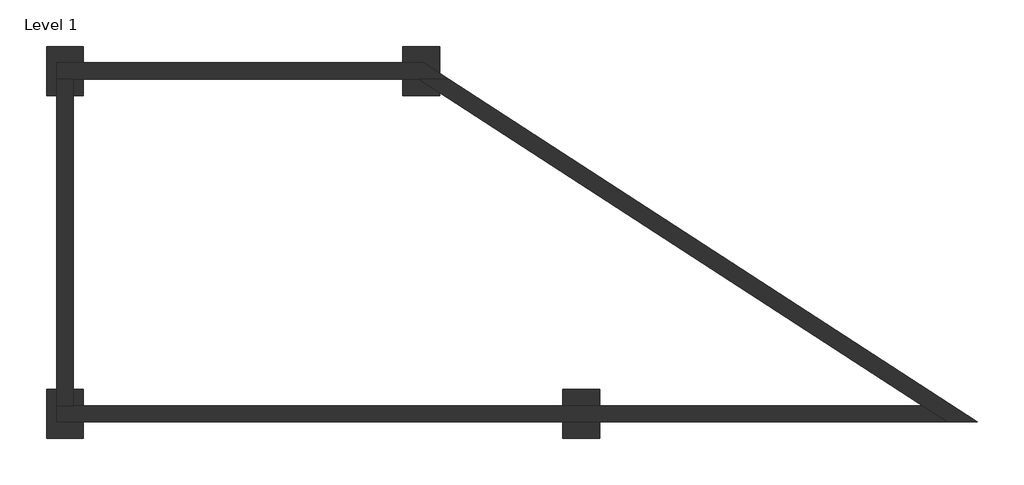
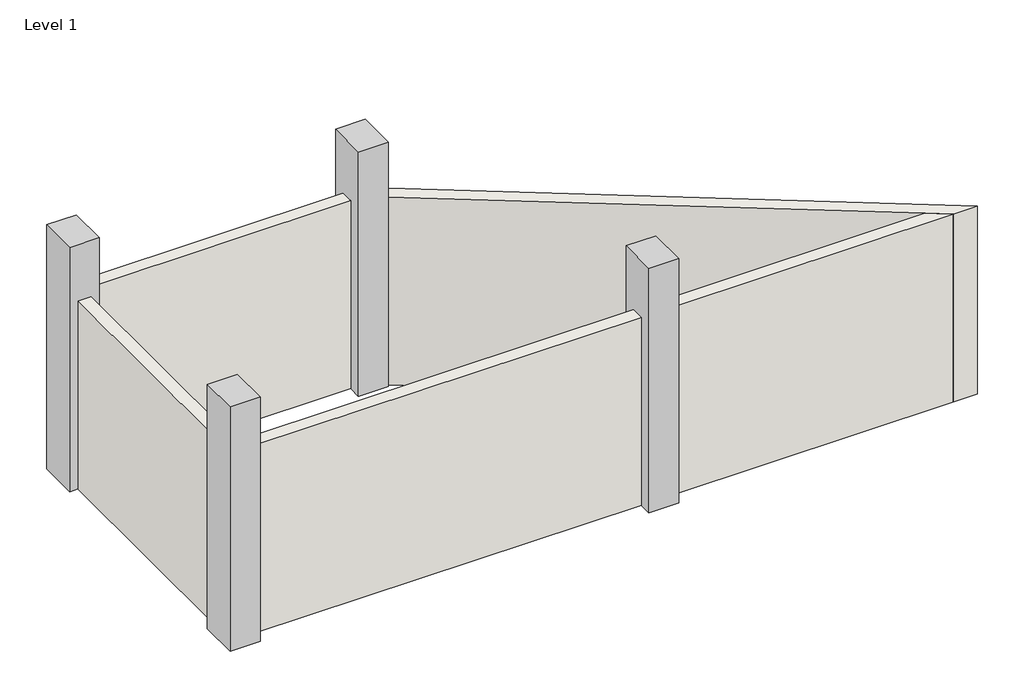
# One storey: 4 columns, 4 walls.
"""IFC4 building model written with IfcOpenShell, lengths in millimetres."""

import ifcopenshell
import ifcopenshell.guid

model = None  # the IFC model being written
_history = None  # IfcOwnerHistory: only IFC2X3 demands one
_inside = {}  # id of a spatial element -> (the spatial element, [elements in it])
_under = {}  # id of a project, library or spatial element -> (it, [spatial elements below it])
_declared = {}  # id of a project -> (the project, [libraries it declares])
_typed = {}  # id of a type object -> (the type object, [elements of that type])
_made_of = {}  # id of a material, layer set ... -> (it, [elements and type objects made of it])


def new_model(schema):
    """Start an empty IFC model of exactly this schema.

    Asked for "IFC4X3", IfcOpenShell would pick the latest addendum, in which some entities
    have other attributes; the version numbers below select the first issue.
    IFC2X3 requires an IfcOwnerHistory on every rooted entity: one is made here for all.
    """
    global model, _history
    if schema == "IFC4X3":
        model = ifcopenshell.file(schema_version=(4, 3, 0, 0))
    else:
        model = ifcopenshell.file(schema=schema)
    _inside.clear()
    _under.clear()
    _declared.clear()
    _typed.clear()
    _made_of.clear()
    _history = None
    if model.schema == "IFC2X3":
        org = make("IfcOrganization", Name="unknown")
        user = make(
            "IfcPersonAndOrganization",
            ThePerson=make("IfcPerson", FamilyName="unknown"),
            TheOrganization=org,
        )
        app = make(
            "IfcApplication",
            ApplicationDeveloper=org,
            Version="unknown",
            ApplicationFullName="unknown",
            ApplicationIdentifier="unknown",
        )
        _history = make(
            "IfcOwnerHistory",
            OwningUser=user,
            OwningApplication=app,
            ChangeAction="ADDED",
            CreationDate=0,
        )
    return model


def make(cls, **values):
    """One entity of the class cls with the attributes given. An attribute that is None is left unset."""
    return model.create_entity(
        cls, **{name: value for name, value in values.items() if value is not None}
    )


def rooted(cls, **values):
    """An entity with a GlobalId (a new one), such as an element, a storey or a relation."""
    return make(cls, GlobalId=ifcopenshell.guid.new(), OwnerHistory=_history, **values)


def si_unit(unit_type, name, prefix=None):
    """IfcSIUnit, for example si_unit("LENGTHUNIT", "METRE", prefix="MILLI")."""
    return make("IfcSIUnit", UnitType=unit_type, Prefix=prefix, Name=name)


def assignment(units):
    """IfcUnitAssignment: the units of a project."""
    return None if units is None else make("IfcUnitAssignment", Units=units)


def point(xyz):
    """IfcCartesianPoint."""
    return None if xyz is None else make("IfcCartesianPoint", Coordinates=xyz)


def direction(xyz):
    """IfcDirection."""
    return None if xyz is None else make("IfcDirection", DirectionRatios=xyz)


def frame(location, z_axis=None, x_axis=None):
    """IfcAxis2Placement3D, a coordinate frame: its origin and axes. An axis left out is left unset."""
    return make(
        "IfcAxis2Placement3D",
        Location=point(location),
        Axis=direction(z_axis),
        RefDirection=direction(x_axis),
    )


def origin():
    """The frame at (0, 0, 0) with its axes left unset."""
    return frame((0.0, 0.0, 0.0))


def place(relative_to, where):
    """IfcLocalPlacement: puts the frame where relative to a parent placement (None: the world)."""
    return make(
        "IfcLocalPlacement", PlacementRelTo=relative_to, RelativePlacement=where
    )


def context(
    kind, dimensions, precision=None, world=None, true_north=None, identifier=None
):
    """IfcGeometricRepresentationContext, for example the 3D "Model" context."""
    return make(
        "IfcGeometricRepresentationContext",
        ContextIdentifier=identifier,
        ContextType=kind,
        CoordinateSpaceDimension=dimensions,
        Precision=precision,
        WorldCoordinateSystem=world,
        TrueNorth=true_north,
    )


def project(units=None, contexts=None):
    """IfcProject with its units and contexts."""
    return rooted(
        "IfcProject",
        Name="project",
        RepresentationContexts=contexts,
        UnitsInContext=assignment(units),
    )


def spatial(cls, under=None, at=None, **own):
    """A site, building, storey or space (cls), placed at a placement, below another one or the project."""
    s = rooted(cls, ObjectPlacement=at, **own)
    if under is not None:
        _under.setdefault(under.id(), (under, []))[1].append(s)
    return s


def polyline(points):
    """IfcPolyline through the points."""
    return make("IfcPolyline", Points=[point(p) for p in points])


def outline(outer, holes=None, kind="AREA"):
    """IfcArbitraryClosedProfileDef: a profile drawn as a closed curve; with holes, ...WithVoids."""
    if holes is None:
        return make("IfcArbitraryClosedProfileDef", ProfileType=kind, OuterCurve=outer)
    return make(
        "IfcArbitraryProfileDefWithVoids",
        ProfileType=kind,
        OuterCurve=outer,
        InnerCurves=holes,
    )


def extrude(swept, where, along, depth):
    """IfcExtrudedAreaSolid: the profile swept, set in the frame where, extruded along a direction by depth."""
    return make(
        "IfcExtrudedAreaSolid",
        SweptArea=swept,
        Position=where,
        ExtrudedDirection=direction(along),
        Depth=depth,
    )


def faces_of(points, faces, orient=None, outer=None):
    """IfcFace entities. A face is a list of loops; a loop is a list of indices into points, from 0.

    orient and outer hold one flag for each loop. By default every Orientation is true, the
    first loop of a face is its IfcFaceOuterBound and the others are IfcFaceBound.
    """
    made = []
    for i, loops in enumerate(faces):
        bounds = []
        for j, loop in enumerate(loops):
            is_outer = j == 0 if outer is None else outer[i][j]
            bounds.append(
                make(
                    "IfcFaceOuterBound" if is_outer else "IfcFaceBound",
                    Bound=make("IfcPolyLoop", Polygon=[points[k] for k in loop]),
                    Orientation=True if orient is None else orient[i][j],
                )
            )
        made.append(make("IfcFace", Bounds=bounds))
    return made


def faceted_brep(points, faces, orient=None, outer=None, voids=None):
    """IfcFacetedBrep: a solid bounded by flat faces; with voids (closed shells), ...WithVoids."""
    shared = [point(p) for p in points]
    hull = make("IfcClosedShell", CfsFaces=faces_of(shared, faces, orient, outer))
    if voids is None:
        return make("IfcFacetedBrep", Outer=hull)
    return make(
        "IfcFacetedBrepWithVoids",
        Outer=hull,
        Voids=[
            make(cls, CfsFaces=faces_of(shared, fs, o, b)) for cls, fs, o, b in voids
        ],
    )


def shape(context_of_items, identifier, shape_type, items):
    """IfcShapeRepresentation: the items that make up one representation, for example the "Body"."""
    return make(
        "IfcShapeRepresentation",
        ContextOfItems=context_of_items,
        RepresentationIdentifier=identifier,
        RepresentationType=shape_type,
        Items=items,
    )


def made_of(thing, what):
    """Note that an element or type object is made of a material, layer set ...; save() writes the relation."""
    if what is not None:
        _made_of.setdefault(what.id(), (what, []))[1].append(thing)
    return thing


def element(
    cls,
    number,
    at=None,
    inside=None,
    cuts=None,
    type_object=None,
    material=None,
    context=None,
    identifier="Body",
    shape_type=None,
    held_by="IfcProductDefinitionShape",
    body=None,
    shapes=None,
    **own,
):
    """One element of the class cls, such as IfcWall. Its Tag is "e" and its number.

    at: its placement. inside: the storey or other place that contains it. cuts: it is an
    opening in that element (IfcRelVoidsElement). A single representation is given by context,
    identifier, shape_type and body (its items); several are given by shapes. held_by: the class
    of the entity that holds the representations. save() writes the other relations.
    """
    e = rooted(cls, Tag="e%d" % number, ObjectPlacement=at, **own)
    if body is not None:
        shapes = [shape(context, identifier, shape_type, body)]
    if shapes is not None:
        e.Representation = make(held_by, Representations=shapes)
    if inside is not None:
        _inside.setdefault(inside.id(), (inside, []))[1].append(e)
    if cuts is not None:
        rooted(
            "IfcRelVoidsElement", RelatingBuildingElement=cuts, RelatedOpeningElement=e
        )
    if type_object is not None:
        _typed.setdefault(type_object.id(), (type_object, []))[1].append(e)
    return made_of(e, material)


def aggregate(whole, parts):
    """IfcRelAggregates: a whole, such as a stair, and the parts it consists of."""
    return rooted("IfcRelAggregates", RelatingObject=whole, RelatedObjects=parts)


def save(model, path):
    """Write the relations noted so far, then the file.

    IfcRelAggregates (storeys below a building ...), IfcRelContainedInSpatialStructure (elements
    in a storey), IfcRelDefinesByType, IfcRelAssociatesMaterial and IfcRelDeclares: one each for
    every whole, place, type object, material and project.
    """
    for whole, parts in _under.values():
        aggregate(whole, parts)
    for where, things in _inside.values():
        rooted(
            "IfcRelContainedInSpatialStructure",
            RelatedElements=things,
            RelatingStructure=where,
        )
    for kind, things in _typed.values():
        rooted("IfcRelDefinesByType", RelatedObjects=things, RelatingType=kind)
    for what, things in _made_of.values():
        rooted("IfcRelAssociatesMaterial", RelatedObjects=things, RelatingMaterial=what)
    for by, libraries in _declared.values():
        rooted("IfcRelDeclares", RelatingContext=by, RelatedDefinitions=libraries)
    model.write(path)


model = new_model("IFC4")

# Units and contexts
model_context = context("Model", 3, world=origin())
ifc_project = project(units=[si_unit("LENGTHUNIT", "METRE", prefix="MILLI")], contexts=[model_context])

# Site, building, storey
site = spatial("IfcSite", under=ifc_project)
building = spatial("IfcBuilding", under=site)
storey = spatial("IfcBuildingStorey", under=building, Name="Level 1", Elevation=0.0)

# Columns
placement = place(None, origin())
element("IfcColumn", 1, ObjectType="Concrete-Rectangular-Column : 18 x 24", at=placement, inside=storey, context=model_context, shape_type="Brep", body=[
    faceted_brep([(-12581.4036402, 17159.1921416, 0.0), (-12581.4036402, 17768.7921416, 0.0), (-12124.2036402, 17768.7921416, 0.0), (-12124.2036402, 17565.5921416, 0.0), (-12454.4036402, 17565.5921416, 0.0), (-12454.4036402, 17362.3921416, 0.0), (-12454.4036402, 17159.1921416, 0.0), (-12124.2036402, 17768.7921416, 3962.4), (-12124.2036402, 17159.1921416, 3962.4), (-12124.2036402, 17159.1921416, 0.0), (-12124.2036402, 17362.3921416, 0.0), (-12124.2036402, 17362.3921416, 3048.0), (-12124.2036402, 17565.5921416, 3048.0), (-12581.4036402, 17159.1921416, 3962.4), (-12454.4036402, 17159.1921416, 3048.0), (-12251.2036402, 17159.1921416, 3048.0), (-12251.2036402, 17159.1921416, 0.0), (-12581.4036402, 17768.7921416, 3962.4), (-12251.2036402, 17362.3921416, 0.0), (-12251.2036402, 17362.3921416, 3048.0), (-12454.4036402, 17565.5921416, 3048.0), (-12454.4036402, 17362.3921416, 3048.0)], [[[0, 1, 2, 3, 4, 5, 6]], [[7, 8, 9, 10, 11, 12, 3, 2]], [[9, 8, 13, 0, 6, 14, 15, 16]], [[1, 0, 13, 17]], [[2, 1, 17, 7]], [[8, 7, 17, 13]], [[11, 10, 18, 19]], [[12, 20, 4, 3]], [[20, 12, 11, 19, 15, 14, 21]], [[4, 20, 21, 14, 6, 5]], [[15, 19, 18, 16]], [[10, 9, 16, 18]]]),
])
element("IfcColumn", 2, ObjectType="Concrete-Rectangular-Column : 18 x 24", at=placement, inside=storey, context=model_context, shape_type="Brep", body=[
    faceted_brep([(-12124.2036402, 13501.5921416, 0.0), (-12124.2036402, 13298.3921416, 0.0), (-12251.2036402, 13298.3921416, 0.0), (-12251.2036402, 13501.5921416, 0.0), (-12124.2036402, 13501.5921416, 3962.4), (-12124.2036402, 12891.9921416, 3962.4), (-12124.2036402, 12891.9921416, 0.0), (-12124.2036402, 13095.1921416, 0.0), (-12124.2036402, 13095.1921416, 3048.0), (-12124.2036402, 13298.3921416, 3048.0), (-12581.4036402, 12891.9921416, 0.0), (-12581.4036402, 12891.9921416, 3962.4), (-12581.4036402, 13501.5921416, 0.0), (-12581.4036402, 13501.5921416, 3962.4), (-12251.2036402, 13501.5921416, 3048.0), (-12454.4036402, 13501.5921416, 3048.0), (-12454.4036402, 13501.5921416, 0.0), (-12251.2036402, 13298.3921416, 3048.0), (-12454.4036402, 13095.1921416, 3048.0), (-12454.4036402, 13095.1921416, 0.0), (-12454.4036402, 13298.3921416, 3048.0), (-12454.4036402, 13298.3921416, 0.0)], [[[0, 1, 2, 3]], [[4, 5, 6, 7, 8, 9, 1, 0]], [[10, 6, 5, 11]], [[12, 10, 11, 13]], [[4, 0, 3, 14, 15, 16, 12, 13]], [[5, 4, 13, 11]], [[1, 9, 17, 2]], [[18, 8, 7, 19]], [[8, 18, 20, 15, 14, 17, 9]], [[15, 20, 18, 19, 21, 16]], [[17, 14, 3, 2]], [[6, 10, 12, 16, 21, 19, 7]]]),
])
element("IfcColumn", 3, ObjectType="Concrete-Rectangular-Column : 18 x 24", at=placement, inside=storey, context=model_context, shape_type="Brep", body=[
    faceted_brep([(-8151.4926856, 17768.7921416, 0.0), (-7694.2926856, 17768.7921416, 0.0), (-7694.2926856, 17436.6816763, 0.0), (-7892.7973945, 17565.5921416, 0.0), (-8151.4926856, 17565.5921416, 0.0), (-7694.2926856, 17768.7921416, 3962.4), (-7694.2926856, 17159.1921416, 3962.4), (-7694.2926856, 17159.1921416, 0.0), (-7694.2926856, 17194.3934552, 0.0), (-7694.2926856, 17194.3934552, 3048.0), (-7694.2926856, 17436.6816763, 3048.0), (-8151.4926856, 17159.1921416, 0.0), (-8151.4926856, 17159.1921416, 3962.4), (-8151.4926856, 17768.7921416, 3962.4), (-8151.4926856, 17565.5921416, 3048.0), (-8151.4926856, 17362.3921416, 3048.0), (-8151.4926856, 17362.3921416, 0.0), (-7952.9879767, 17362.3921416, 3048.0), (-7952.9879767, 17362.3921416, 0.0), (-7892.7973945, 17565.5921416, 3048.0)], [[[0, 1, 2, 3, 4]], [[5, 6, 7, 8, 9, 10, 2, 1]], [[11, 7, 6, 12]], [[11, 12, 13, 0, 4, 14, 15, 16]], [[1, 0, 13, 5]], [[6, 5, 13, 12]], [[16, 15, 17, 18]], [[19, 14, 4, 3]], [[14, 19, 10, 9, 17, 15]], [[19, 3, 2, 10]], [[7, 11, 16, 18, 8]], [[17, 9, 8, 18]]]),
])
element("IfcColumn", 4, ObjectType="Concrete-Rectangular-Column : 18 x 24", at=placement, inside=storey, context=model_context, shape_type="SweptSolid", body=[
    extrude(outline(polyline([(12891.9921416, 0.0), (12891.9921416, 3962.4), (13501.5921416, 3962.4), (13501.5921416, 0.0), (13298.3921416, 0.0), (13298.3921416, 3048.0), (13095.1921416, 3048.0), (13095.1921416, 0.0), (12891.9921416, 0.0)])), frame((-6161.6646467, 0.0, 0.0), z_axis=(1.0, 0.0, 0.0), x_axis=(0.0, 1.0, 0.0)), (0.0, 0.0, 1.0), 457.2),
])

# Walls
element("IfcWall", 5, ObjectType="Generic - 8\"", at=placement, inside=storey, context=model_context, shape_type="Brep", body=[
    faceted_brep([(-12454.4036402, 17362.3921416, 0.0), (-12251.2036402, 17362.3921416, 0.0), (-12124.2036402, 17362.3921416, 0.0), (-8151.4926856, 17362.3921416, 0.0), (-7952.9879767, 17362.3921416, 0.0), (-7579.8968339, 17362.3921416, 0.0), (-7579.8968339, 17362.3921416, 3048.0), (-7952.9879767, 17362.3921416, 3048.0), (-8151.4926856, 17362.3921416, 3048.0), (-12124.2036402, 17362.3921416, 3048.0), (-12251.2036402, 17362.3921416, 3048.0), (-12454.4036402, 17362.3921416, 3048.0), (-12454.4036402, 17565.5921416, 0.0), (-12454.4036402, 17565.5921416, 3048.0), (-12124.2036402, 17565.5921416, 3048.0), (-8151.4926856, 17565.5921416, 3048.0), (-7892.7973945, 17565.5921416, 3048.0), (-7892.7973945, 17565.5921416, 0.0), (-8151.4926856, 17565.5921416, 0.0), (-12124.2036402, 17565.5921416, 0.0), (-7694.2926856, 17436.6816763, 0.0), (-7694.2926856, 17436.6816763, 3048.0)], [[[0, 1, 2, 3, 4, 5, 6, 7, 8, 9, 10, 11]], [[12, 13, 14, 15, 16, 17, 18, 19]], [[5, 4, 3, 2, 1, 0, 12, 19, 18, 17, 20]], [[11, 10, 9, 8, 7, 6, 21, 16, 15, 14, 13]], [[6, 5, 20, 17, 16, 21]], [[0, 11, 13, 12]]]),
])
element("IfcWall", 6, ObjectType="Generic - 8\"", at=placement, inside=storey, context=model_context, shape_type="Brep", body=[
    faceted_brep([(-7952.9879767, 17362.3921416, 0.0), (-7694.2926856, 17194.3934552, 0.0), (-1694.9767638, 13298.3921416, 0.0), (-1382.0762031, 13095.1921416, 0.0), (-1382.0762031, 13095.1921416, 3048.0), (-1694.9767638, 13298.3921416, 3048.0), (-7694.2926856, 17194.3934552, 3048.0), (-7952.9879767, 17362.3921416, 3048.0), (-7579.8968339, 17362.3921416, 0.0), (-7579.8968339, 17362.3921416, 3048.0), (-1008.9850603, 13095.1921416, 3048.0), (-1008.9850603, 13095.1921416, 0.0)], [[[0, 1, 2, 3, 4, 5, 6, 7]], [[8, 9, 10, 11]], [[3, 2, 1, 0, 8, 11]], [[7, 6, 5, 4, 10, 9]], [[0, 7, 9, 8]], [[4, 3, 11, 10]]]),
])
element("IfcWall", 7, ObjectType="Generic - 8\"", at=placement, inside=storey, context=model_context, shape_type="Brep", body=[
    faceted_brep([(-1694.9767638, 13298.3921416, 0.0), (-5704.4646467, 13298.3921416, 0.0), (-6161.6646467, 13298.3921416, 0.0), (-12124.2036402, 13298.3921416, 0.0), (-12251.2036402, 13298.3921416, 0.0), (-12454.4036402, 13298.3921416, 0.0), (-12454.4036402, 13298.3921416, 3048.0), (-12251.2036402, 13298.3921416, 3048.0), (-12124.2036402, 13298.3921416, 3048.0), (-6161.6646467, 13298.3921416, 3048.0), (-5704.4646467, 13298.3921416, 3048.0), (-1694.9767638, 13298.3921416, 3048.0), (-1382.0762031, 13095.1921416, 0.0), (-1382.0762031, 13095.1921416, 3048.0), (-5704.4646467, 13095.1921416, 3048.0), (-6161.6646467, 13095.1921416, 3048.0), (-12124.2036402, 13095.1921416, 3048.0), (-12454.4036402, 13095.1921416, 3048.0), (-12454.4036402, 13095.1921416, 0.0), (-12124.2036402, 13095.1921416, 0.0), (-6161.6646467, 13095.1921416, 0.0), (-5704.4646467, 13095.1921416, 0.0)], [[[0, 1, 2, 3, 4, 5, 6, 7, 8, 9, 10, 11]], [[12, 13, 14, 15, 16, 17, 18, 19, 20, 21]], [[5, 4, 3, 2, 1, 0, 12, 21, 20, 19, 18]], [[11, 10, 9, 8, 7, 6, 17, 16, 15, 14, 13]], [[0, 11, 13, 12]], [[6, 5, 18, 17]]]),
])
element("IfcWall", 8, ObjectType="Generic - 8\"", at=placement, inside=storey, context=model_context, shape_type="Brep", body=[
    faceted_brep([(-12251.2036402, 13298.3921416, 0.0), (-12251.2036402, 13501.5921416, 0.0), (-12251.2036402, 17159.1921416, 0.0), (-12251.2036402, 17362.3921416, 0.0), (-12251.2036402, 17362.3921416, 3048.0), (-12251.2036402, 17159.1921416, 3048.0), (-12251.2036402, 13501.5921416, 3048.0), (-12251.2036402, 13298.3921416, 3048.0), (-12454.4036402, 13298.3921416, 0.0), (-12454.4036402, 13298.3921416, 3048.0), (-12454.4036402, 13501.5921416, 3048.0), (-12454.4036402, 17159.1921416, 3048.0), (-12454.4036402, 17362.3921416, 3048.0), (-12454.4036402, 17362.3921416, 0.0), (-12454.4036402, 17159.1921416, 0.0), (-12454.4036402, 13501.5921416, 0.0)], [[[0, 1, 2, 3, 4, 5, 6, 7]], [[8, 9, 10, 11, 12, 13, 14, 15]], [[3, 2, 1, 0, 8, 15, 14, 13]], [[7, 6, 5, 4, 12, 11, 10, 9]], [[4, 3, 13, 12]], [[0, 7, 9, 8]]]),
])

save(model, "model.ifc")
